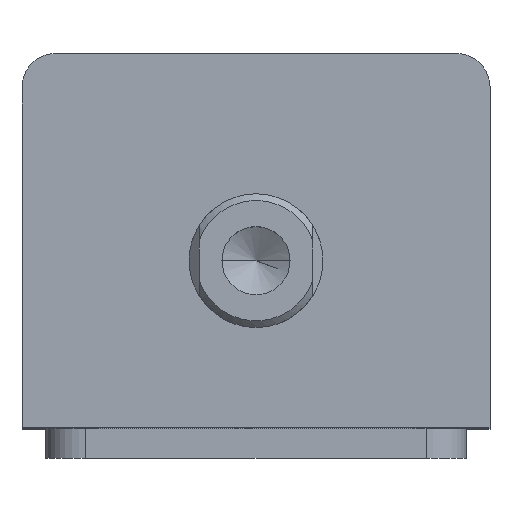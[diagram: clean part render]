
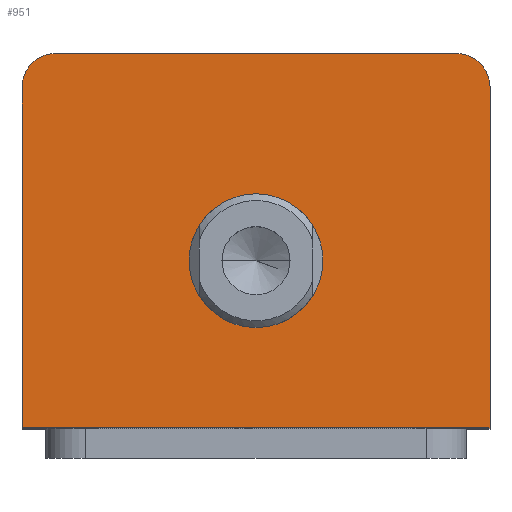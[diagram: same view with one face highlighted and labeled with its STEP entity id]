
A CAD part, top view. The second image highlights one B-rep face of the part: STEP entity #951.
In plain terms, the highlighted planar face has unit normal (0, 0, 1).
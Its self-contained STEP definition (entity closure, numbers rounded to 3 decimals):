
#246 = CARTESIAN_POINT ( 'NONE',  ( 0., 0., 134. ) ) ;
#275 = DIRECTION ( 'NONE',  ( 1., 0., 0. ) ) ;
#277 = CARTESIAN_POINT ( 'NONE',  ( -35., -28., 134. ) ) ;
#335 = DIRECTION ( 'NONE',  ( -1., 0., 0. ) ) ;
#353 = CARTESIAN_POINT ( 'NONE',  ( -35., 28., 134. ) ) ;
#376 = DIRECTION ( 'NONE',  ( 1., 0., 0. ) ) ;
#378 = DIRECTION ( 'NONE',  ( 0., 0., 1. ) ) ;
#379 = CARTESIAN_POINT ( 'NONE',  ( 0., -3., 134. ) ) ;
#541 = DIRECTION ( 'NONE',  ( 1., 0., 0. ) ) ;
#542 = DIRECTION ( 'NONE',  ( 0., 0., 1. ) ) ;
#544 = PLANE ( 'NONE',  #2078 ) ;
#613 = VERTEX_POINT ( 'NONE', #2655 ) ;
#616 = VERTEX_POINT ( 'NONE', #2649 ) ;
#677 = VERTEX_POINT ( 'NONE', #2565 ) ;
#679 = VERTEX_POINT ( 'NONE', #2562 ) ;
#680 = VERTEX_POINT ( 'NONE', #2561 ) ;
#692 = VERTEX_POINT ( 'NONE', #2539 ) ;
#696 = VERTEX_POINT ( 'NONE', #2535 ) ;
#701 = VERTEX_POINT ( 'NONE', #2530 ) ;
#951 = ADVANCED_FACE ( 'NONE', ( #3017, #3020 ), #544, .T. ) ;
#986 = CIRCLE ( 'NONE', #2052, 10. ) ;
#1008 = LINE ( 'NONE', #353, #1013 ) ;
#1013 = VECTOR ( 'NONE', #335, 1000. ) ;
#1030 = LINE ( 'NONE', #277, #1033 ) ;
#1033 = VECTOR ( 'NONE', #275, 1000. ) ;
#1058 = LINE ( 'NONE', #2031, #1061 ) ;
#1061 = VECTOR ( 'NONE', #2030, 1000. ) ;
#1078 = CIRCLE ( 'NONE', #2172, 5. ) ;
#1097 = CIRCLE ( 'NONE', #1342, 5. ) ;
#1105 = LINE ( 'NONE', #2034, #1108 ) ;
#1108 = VECTOR ( 'NONE', #2033, 1000. ) ;
#1126 = CIRCLE ( 'NONE', #1259, 10. ) ;
#1259 = AXIS2_PLACEMENT_3D ( 'NONE', #1967, #1965, #1962 ) ;
#1342 = AXIS2_PLACEMENT_3D ( 'NONE', #1762, #1758, #1756 ) ;
#1585 = ORIENTED_EDGE ( 'NONE', *, *, #2235, .T. ) ;
#1586 = ORIENTED_EDGE ( 'NONE', *, *, #2282, .T. ) ;
#1587 = ORIENTED_EDGE ( 'NONE', *, *, #2277, .T. ) ;
#1588 = ORIENTED_EDGE ( 'NONE', *, *, #2222, .T. ) ;
#1589 = ORIENTED_EDGE ( 'NONE', *, *, #2265, .T. ) ;
#1590 = ORIENTED_EDGE ( 'NONE', *, *, #2249, .T. ) ;
#1591 = ORIENTED_EDGE ( 'NONE', *, *, #2300, .F. ) ;
#1592 = ORIENTED_EDGE ( 'NONE', *, *, #2201, .F. ) ;
#1756 = DIRECTION ( 'NONE',  ( 1., 0., 0. ) ) ;
#1758 = DIRECTION ( 'NONE',  ( 0., 0., 1. ) ) ;
#1762 = CARTESIAN_POINT ( 'NONE',  ( -30., 23., 134. ) ) ;
#1886 = DIRECTION ( 'NONE',  ( 1., 0., 0. ) ) ;
#1890 = DIRECTION ( 'NONE',  ( 0., 0., 1. ) ) ;
#1891 = CARTESIAN_POINT ( 'NONE',  ( 30., 23., 134. ) ) ;
#1962 = DIRECTION ( 'NONE',  ( 1., 0., 0. ) ) ;
#1965 = DIRECTION ( 'NONE',  ( 0., 0., 1. ) ) ;
#1967 = CARTESIAN_POINT ( 'NONE',  ( 0., -3., 134. ) ) ;
#2030 = DIRECTION ( 'NONE',  ( 0., 1., 0. ) ) ;
#2031 = CARTESIAN_POINT ( 'NONE',  ( 35., 28., 134. ) ) ;
#2033 = DIRECTION ( 'NONE',  ( 0., -1., 0. ) ) ;
#2034 = CARTESIAN_POINT ( 'NONE',  ( -35., 28., 134. ) ) ;
#2052 = AXIS2_PLACEMENT_3D ( 'NONE', #379, #378, #376 ) ;
#2078 = AXIS2_PLACEMENT_3D ( 'NONE', #246, #542, #541 ) ;
#2172 = AXIS2_PLACEMENT_3D ( 'NONE', #1891, #1890, #1886 ) ;
#2201 = EDGE_CURVE ( 'NONE', #613, #679, #986, .T. ) ;
#2222 = EDGE_CURVE ( 'NONE', #696, #680, #1008, .T. ) ;
#2235 = EDGE_CURVE ( 'NONE', #692, #677, #1030, .T. ) ;
#2249 = EDGE_CURVE ( 'NONE', #677, #616, #1058, .T. ) ;
#2265 = EDGE_CURVE ( 'NONE', #616, #696, #1078, .T. ) ;
#2277 = EDGE_CURVE ( 'NONE', #680, #701, #1097, .T. ) ;
#2282 = EDGE_CURVE ( 'NONE', #701, #692, #1105, .T. ) ;
#2300 = EDGE_CURVE ( 'NONE', #679, #613, #1126, .T. ) ;
#2530 = CARTESIAN_POINT ( 'NONE',  ( -35., 23., 134. ) ) ;
#2535 = CARTESIAN_POINT ( 'NONE',  ( 30., 28., 134. ) ) ;
#2539 = CARTESIAN_POINT ( 'NONE',  ( -35., -28., 134. ) ) ;
#2561 = CARTESIAN_POINT ( 'NONE',  ( -30., 28., 134. ) ) ;
#2562 = CARTESIAN_POINT ( 'NONE',  ( -10., -3., 134. ) ) ;
#2565 = CARTESIAN_POINT ( 'NONE',  ( 35., -28., 134. ) ) ;
#2649 = CARTESIAN_POINT ( 'NONE',  ( 35., 23., 134. ) ) ;
#2655 = CARTESIAN_POINT ( 'NONE',  ( 10., -3., 134. ) ) ;
#2773 = EDGE_LOOP ( 'NONE', ( #1592, #1591 ) ) ;
#2778 = EDGE_LOOP ( 'NONE', ( #1590, #1589, #1588, #1587, #1586, #1585 ) ) ;
#3017 = FACE_BOUND ( 'NONE', #2773, .T. ) ;
#3020 = FACE_OUTER_BOUND ( 'NONE', #2778, .T. ) ;
